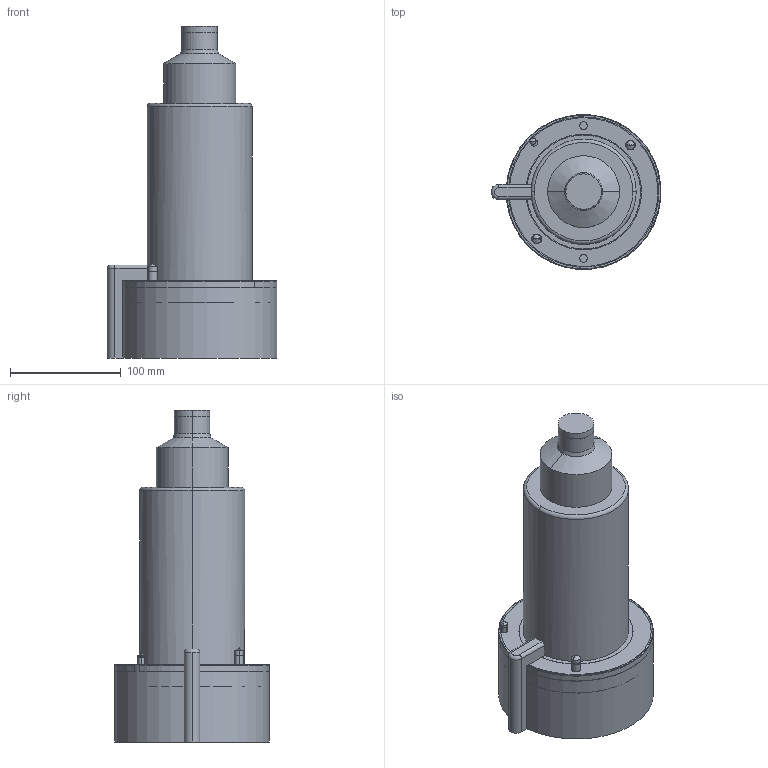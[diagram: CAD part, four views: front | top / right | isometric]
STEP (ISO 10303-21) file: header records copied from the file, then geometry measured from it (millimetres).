
FILE_DESCRIPTION (( 'STEP AP214' ), '1' );
FILE_NAME ('SB24B_CLOSED_A250.STEP', '2009-07-28T14:32:16', ( 'Synventive Molding Solutions' ), ( 'Synventive Molding Solutions' ), 'SwSTEP 2.0', 'SolidWorks 2008', '' );
FILE_SCHEMA (( 'AUTOMOTIVE_DESIGN' ));
Length unit declared in the file: millimetre
Products named in the file (1): SB24B_CLOSED_A250
Bounding box: 153.29 x 139.67 x 300 mm (x, y, z)
Volume: 3494095 mm3; surface area: 305426.2 mm2
Topology: 5 solids, 10 shells, 633 faces, 1556 edges, 965 vertices
Faces by surface type: cylinder 254, plane 222, torus 81, cone 66, sphere 6, bspline 4
Entity records: 27225 total; most frequent: CARTESIAN_POINT 5131, DIRECTION 3302, ORIENTED_EDGE 3076, EDGE_CURVE 1538, AXIS2_PLACEMENT_3D 1304, VERTEX_POINT 965, LINE 694, VECTOR 694
